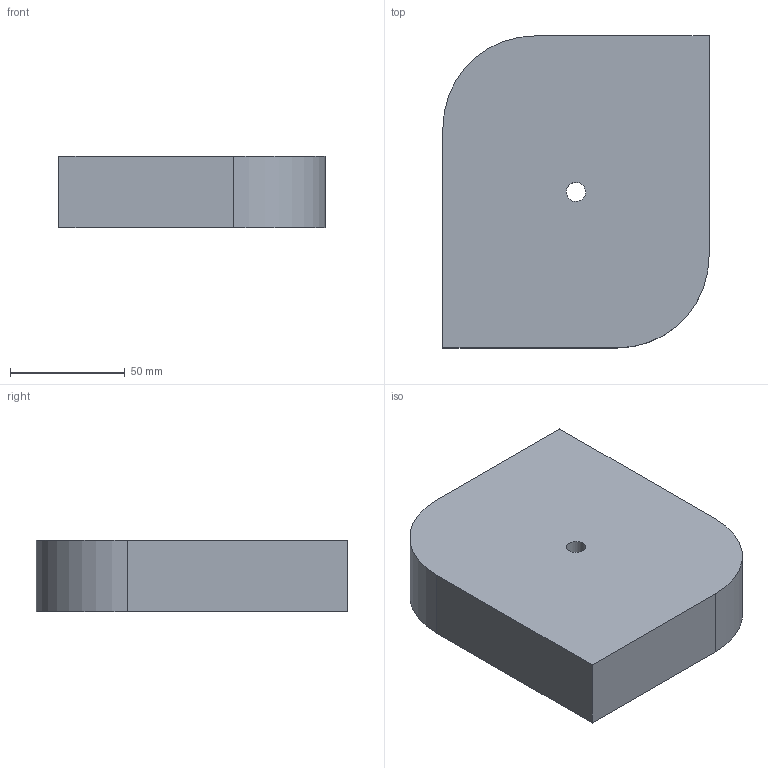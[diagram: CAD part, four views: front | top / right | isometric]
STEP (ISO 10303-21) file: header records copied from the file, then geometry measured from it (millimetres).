
FILE_DESCRIPTION(('CATIA V5 STEP Exchange'),'2;1');
FILE_NAME('C:\_Andres\UNIVERSIDAD\IQS\ASIGNATURAS\DAO\EXF\EXF-15161c\1original\Subirada_Blanco_Ej01-plano_v26.stp','2016-03-04T14:59:47+00:00',('none'),('none'),'CATIA Version 5 Release 20 SP 1 (IN-10)','CATIA V5 STEP AP203','none');
FILE_SCHEMA(('CONFIG_CONTROL_DESIGN'));
Length unit declared in the file: millimetre
Products named in the file (1): Subirada_Blanco_Ej01-plano_v26
Bounding box: 116 x 136 x 31 mm (x, y, z)
Volume: 466059.4 mm3; surface area: 45443.7 mm2
Topology: 1 solids, 1 shells, 10 faces, 24 edges, 16 vertices
Faces by surface type: plane 6, cylinder 4
Entity records: 333 total; most frequent: CARTESIAN_POINT 51, ORIENTED_EDGE 48, DIRECTION 44, EDGE_CURVE 24, AXIS2_PLACEMENT_3D 19, VECTOR 16, LINE 16, VERTEX_POINT 16
